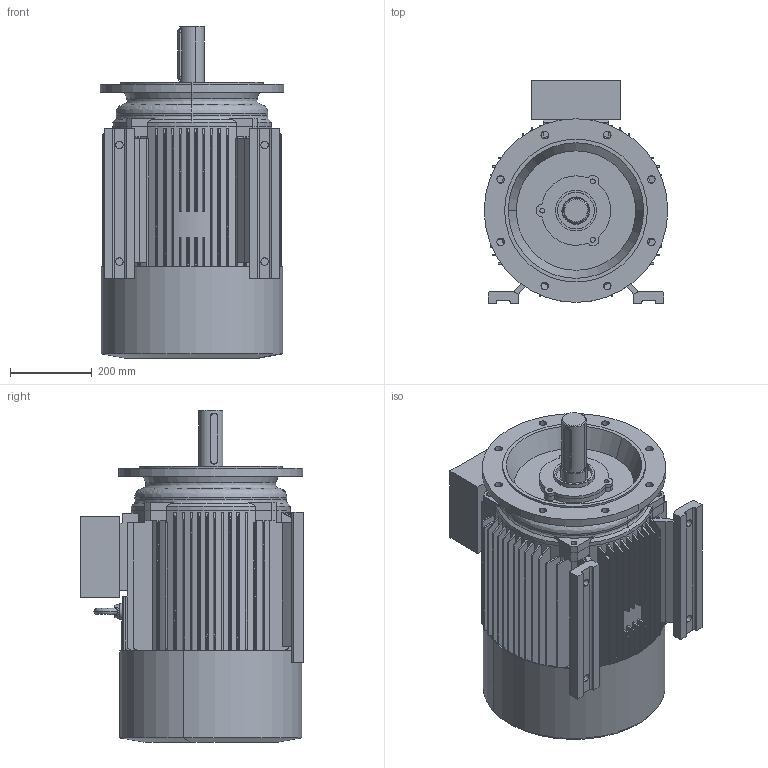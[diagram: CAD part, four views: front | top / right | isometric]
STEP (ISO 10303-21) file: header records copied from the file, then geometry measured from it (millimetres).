
FILE_DESCRIPTION (( 'STEP AP203' ), '1' );
FILE_NAME ('M3-225S-4p-FF-B35.STEP', '2019-07-11T08:45:44', ( '' ), ( '' ), 'SwSTEP 2.0', 'SolidWorks 2012', '' );
FILE_SCHEMA (( 'CONFIG_CONTROL_DESIGN' ));
Length unit declared in the file: millimetre
Products named in the file (9): 225-4ﾍﾟ+ｦｰ+ｳ_-ｼ+､; Y2-225ﾀiﾍ_-ｼ+､; M3-225S-4p-FF-B35; Eyebolts GB_GB_FASTENER_SCREWS_FRS M16-N_9; Y2-225SB3+ｷﾎｨ_-ｼ+､; 225-4-ｦﾈﾁ_-ｼ+､; Y2-225-4Íß¦ð-Ô©Ã_-¼+¤; Plain parallel keys_GB_CONNECTING_PIECE_KEYS_CSK 18X125_6; 225-4ﾍﾟ+_-ｼ+､
Assembly tree (8 placements, depth 3):
  M3-225S-4p-FF-B35
    225-4ﾍﾟ+ｦｰ+ｳ_-ｼ+､
      Plain parallel keys_GB_CONNECTING_PIECE_KEYS_CSK 18X125_6
      225-4ﾍﾟ+_-ｼ+､
    225-4-ｦﾈﾁ_-ｼ+､
    Y2-225-4Íß¦ð-Ô©Ã_-¼+¤
    Y2-225SB3+ｷﾎｨ_-ｼ+､
    Y2-225ﾀiﾍ_-ｼ+､
    Eyebolts GB_GB_FASTENER_SCREWS_FRS M16-N_9
Bounding box: 450 x 548 x 813.5 mm (x, y, z)
Volume: 20112031.9 mm3; surface area: 3958655.6 mm2
Topology: 8 solids, 8 shells, 793 faces, 2108 edges, 1388 vertices
Faces by surface type: plane 302, cylinder 275, cone 176, bspline 40
Entity records: 31554 total; most frequent: CARTESIAN_POINT 11110, ORIENTED_EDGE 4216, DIRECTION 3861, EDGE_CURVE 2108, AXIS2_PLACEMENT_3D 1445, VERTEX_POINT 1388, VECTOR 971, LINE 971
